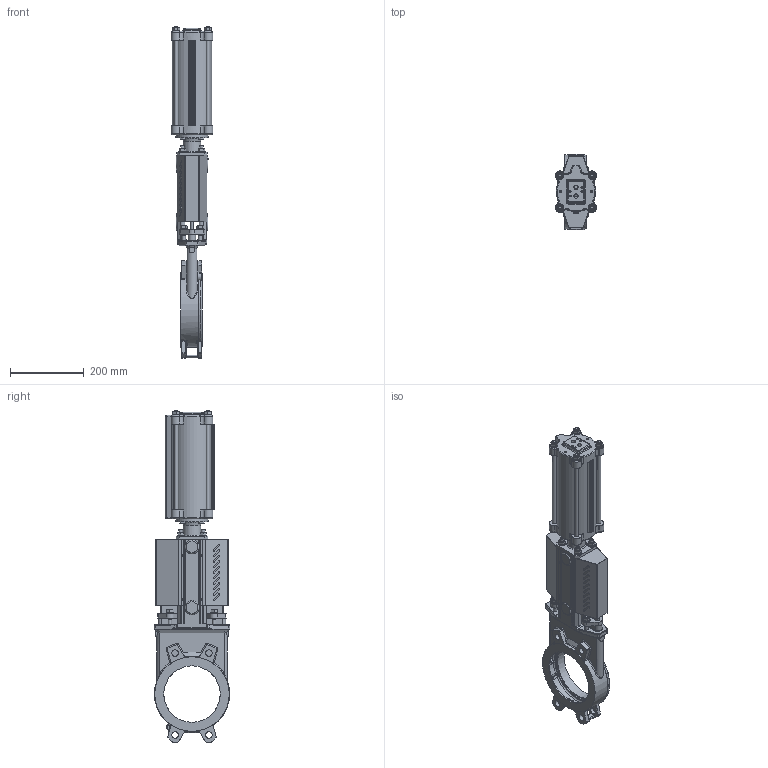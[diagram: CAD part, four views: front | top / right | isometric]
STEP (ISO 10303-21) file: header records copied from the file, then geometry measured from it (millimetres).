
FILE_DESCRIPTION(/* description */ (''),/* implementation_level */ '2;1');
FILE_NAME(/* name */ 'F:\Emir\3D-block special\MV VALVE\PNEUMATIC ACTUATOR\MV-DN150-PN10-FRSC100-165.stp',/* time_stamp */ '2018-02-15T14:59:30+01:00',/* author */ ('emimus'),/* organization */ (''),/* preprocessor_version */ 'ST-DEVELOPER v17',/* originating_system */ 'Autodesk Inventor 2018',/* authorisation */ '');
FILE_SCHEMA (('CONFIG_CONTROL_DESIGN'));
Products named in the file (1): MV-DN150-PN10-FRSC100-165
Bounding box: 112.17 x 205 x 900 mm (x, y, z)
Volume: 3029565.4 mm3; surface area: 1093420.1 mm2
Topology: 3 solids, 3 shells, 2391 faces, 6162 edges, 3858 vertices
Faces by surface type: plane 858, cylinder 620, cone 332, bspline 265, torus 227, sphere 89
Full cylindrical faces by diameter (mm): 3 x12, 3.5 x6, 3.6 x6, 4 x4, 4.134 x4, 4.2 x4, 4.5 x4, 4.917 x4, 6 x4, 6.75 x1, 8 x7, 8.5 x8, 10 x28, 10.106 x1, 10.5 x12, 11 x8, 11.445 x2, 11.63 x4, 12 x4, 14 x1, 14.376 x1, 15 x3, 15.24 x2, 17.5 x8, 20 x13, 20.15 x2, 22 x1, 24 x5, 26 x1, 26.4 x1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
Entity records: 101341 total; most frequent: CARTESIAN_POINT 44382, ORIENTED_EDGE 12218, DIRECTION 11929, EDGE_CURVE 6109, AXIS2_PLACEMENT_3D 4942, VERTEX_POINT 3858, EDGE_LOOP 2683, CIRCLE 2574
